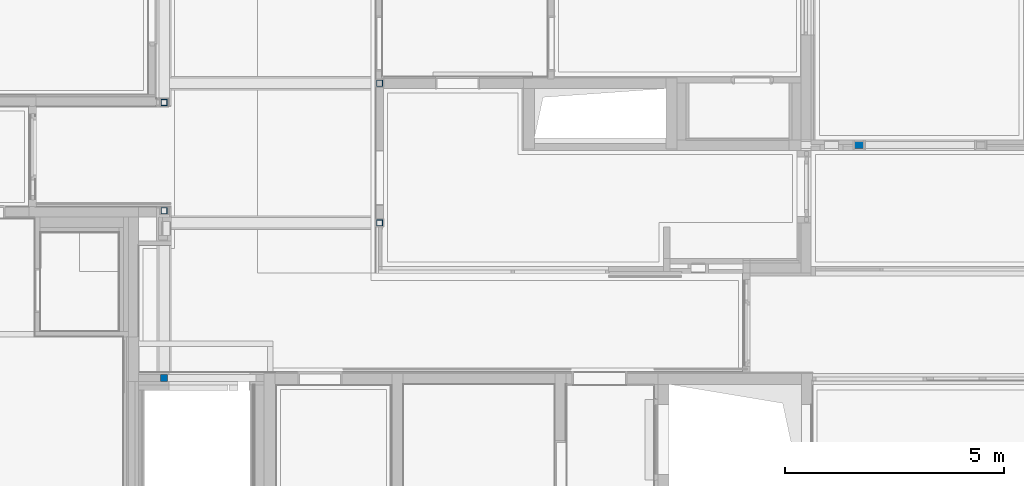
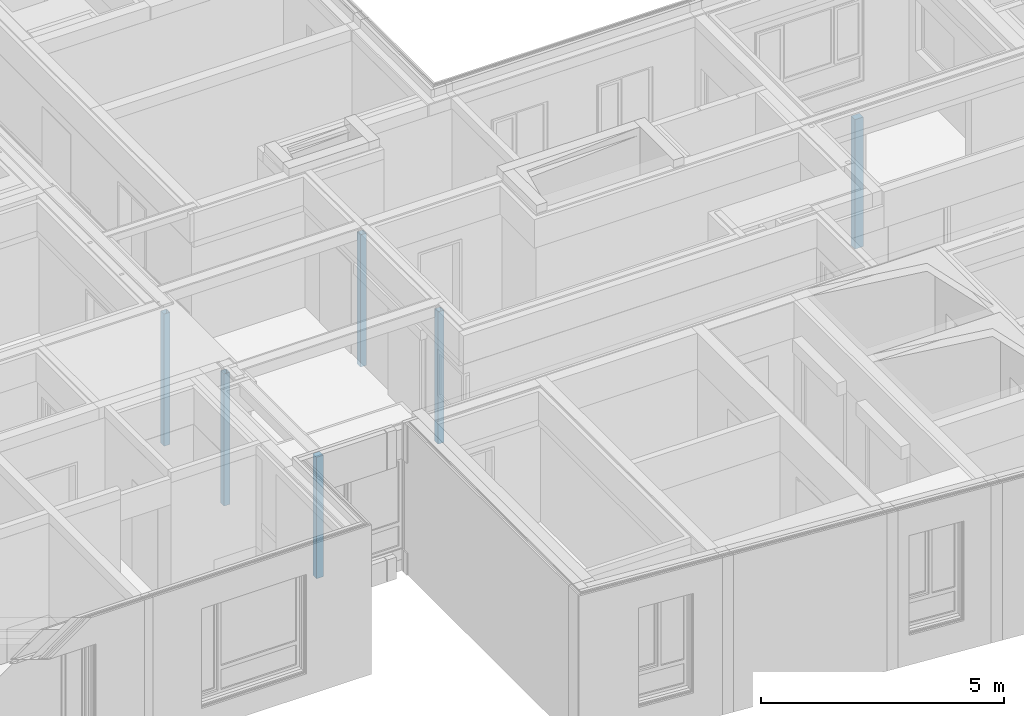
# One storey, part 1 of 222: 6 columns.
"""IFC4 building model written with IfcOpenShell, lengths in metres."""

from ifc_helpers import new_model, entity, si_unit, converted_unit, derived_unit, frame, frame_2d, origin, origin_with_axes, place, context, subcontext, project, spatial, polyline, rectangle, outline, extrude, material, element, save


model = new_model("IFC4")

# Units and contexts
model_context = context("Model", 3, precision=1e-05, world=origin())
body_context = subcontext(model_context, "Body", "Model", "MODEL_VIEW")
ifc_project = project(units=[si_unit("LENGTHUNIT", "METRE"), si_unit("AREAUNIT", "SQUARE_METRE"), si_unit("VOLUMEUNIT", "CUBIC_METRE"), si_unit("MASSUNIT", "GRAM", prefix="KILO"), converted_unit("PLANEANGLEUNIT", "DEGREE", entity("IfcPlaneAngleMeasure", 0.0174532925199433), si_unit("PLANEANGLEUNIT", "RADIAN"), dimensions=[0, 0, 0, 0, 0, 0, 0]), derived_unit("THERMALTRANSMITTANCEUNIT", [(si_unit("POWERUNIT", "WATT"), 1), (si_unit("THERMODYNAMICTEMPERATUREUNIT", "KELVIN"), -1), (si_unit("LENGTHUNIT", "METRE"), -2)]), derived_unit("VOLUMETRICFLOWRATEUNIT", [(si_unit("LENGTHUNIT", "METRE"), 3), (converted_unit("TIMEUNIT", "hour", entity("IfcTimeMeasure", 3600.0), si_unit("TIMEUNIT", "SECOND"), dimensions=[0, 0, 1, 0, 0, 0, 0]), -1), (si_unit("LENGTHUNIT", "METRE"), -1)])], contexts=[model_context])

# Site, building, storey
site_placement = place(None, origin())
site = spatial("IfcSite", under=ifc_project, at=site_placement, Name="Psychiatrie Neubau Wunstorf", CompositionType="ELEMENT")
building_placement = place(site_placement, origin())
building = spatial("IfcBuilding", under=site, at=building_placement, Name="Neubau H2 Stationsgebäude", CompositionType="ELEMENT")
storey_placement = place(building_placement, frame((0.0, 0.0, 3.6)))
storey = spatial("IfcBuildingStorey", under=building, at=storey_placement, Name="H2 Ebene +1", CompositionType="ELEMENT", Elevation=3.6)

# Columns
ifc_material_1 = material(Name="H")
column_1_placement = place(storey_placement, frame((35.6649950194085, 0.340002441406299, 0.5)))
element("IfcColumn", 1, at=column_1_placement, inside=storey, material=ifc_material_1, PredefinedType="COLUMN", context=body_context, shape_type="SweptSolid", body=[
    extrude(rectangle(XDim=0.16, YDim=0.16, at=frame_2d((0.08, 0.08), x_axis=(1.0, 0.0))), origin_with_axes(), (0.0, 0.0, 1.0), 3.05),
])
ifc_material_2 = material(Name="QRO")
column_2_placement = place(storey_placement, frame((35.6749950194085, 4.16574963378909, 0.0)))
element("IfcColumn", 2, at=column_2_placement, inside=storey, material=ifc_material_2, Name="QRO 140x5", PredefinedType="COLUMN", context=body_context, shape_type="SweptSolid", body=[
    extrude(outline(polyline([(0.0, 0.0), (0.14, 0.0), (0.14, 0.14), (0.0, 0.14), (0.0, 0.0)]), holes=[polyline([(0.005, 0.005), (0.005, 0.135), (0.135, 0.135), (0.135, 0.005), (0.005, 0.005)])]), origin_with_axes(), (0.0, 0.0, 1.0), 3.317),
])
ifc_material_3 = material(Name="QRO")
column_3_placement = place(storey_placement, frame((35.6752396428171, 6.63699999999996, 0.0)))
element("IfcColumn", 3, at=column_3_placement, inside=storey, material=ifc_material_3, Name="QRO 140x5", PredefinedType="COLUMN", context=body_context, shape_type="SweptSolid", body=[
    extrude(outline(polyline([(0.0, 0.0), (0.14, 0.0), (0.14, 0.14), (0.0, 0.14), (0.0, 0.0)]), holes=[polyline([(0.005, 0.005), (0.005, 0.135), (0.135, 0.135), (0.135, 0.005), (0.005, 0.005)])]), origin_with_axes(), (0.0, 0.0, 1.0), 3.317),
])
ifc_material_4 = material(Name="QRO")
column_4_placement = place(storey_placement, frame((40.5949975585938, 3.8899969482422, 0.0)))
element("IfcColumn", 4, at=column_4_placement, inside=storey, material=ifc_material_4, Name="QRO 140x5", PredefinedType="COLUMN", context=body_context, shape_type="SweptSolid", body=[
    extrude(outline(polyline([(0.0, 0.0), (0.14, 0.0), (0.14, 0.14), (0.0, 0.14), (0.0, 0.0)]), holes=[polyline([(0.005, 0.005), (0.005, 0.135), (0.135, 0.135), (0.135, 0.005), (0.005, 0.005)])]), origin_with_axes(), (0.0, 0.0, 1.0), 3.317),
])
ifc_material_5 = material(Name="QRO")
column_5_placement = place(storey_placement, frame((40.5949975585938, 7.07649969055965, 0.0)))
element("IfcColumn", 5, at=column_5_placement, inside=storey, material=ifc_material_5, Name="QRO 140x5", PredefinedType="COLUMN", context=body_context, shape_type="SweptSolid", body=[
    extrude(outline(polyline([(0.0, 0.0), (0.14, 0.0), (0.14, 0.14), (0.0, 0.14), (0.0, 0.0)]), holes=[polyline([(0.005, 0.005), (0.005, 0.135), (0.135, 0.135), (0.135, 0.005), (0.005, 0.005)])]), origin_with_axes(), (0.0, 0.0, 1.0), 3.317),
])
ifc_material_6 = material(Name="H")
column_6_placement = place(storey_placement, frame((51.7119953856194, 5.65349969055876, 0.0)))
element("IfcColumn", 6, at=column_6_placement, inside=storey, material=ifc_material_6, PredefinedType="COLUMN", context=body_context, shape_type="SweptSolid", body=[
    extrude(rectangle(XDim=0.16, YDim=0.2, at=frame_2d((-0.1, 0.08), x_axis=(0.0, 1.0))), origin_with_axes(), (0.0, 0.0, 1.0), 3.25),
])

save(model, "model.ifc")
